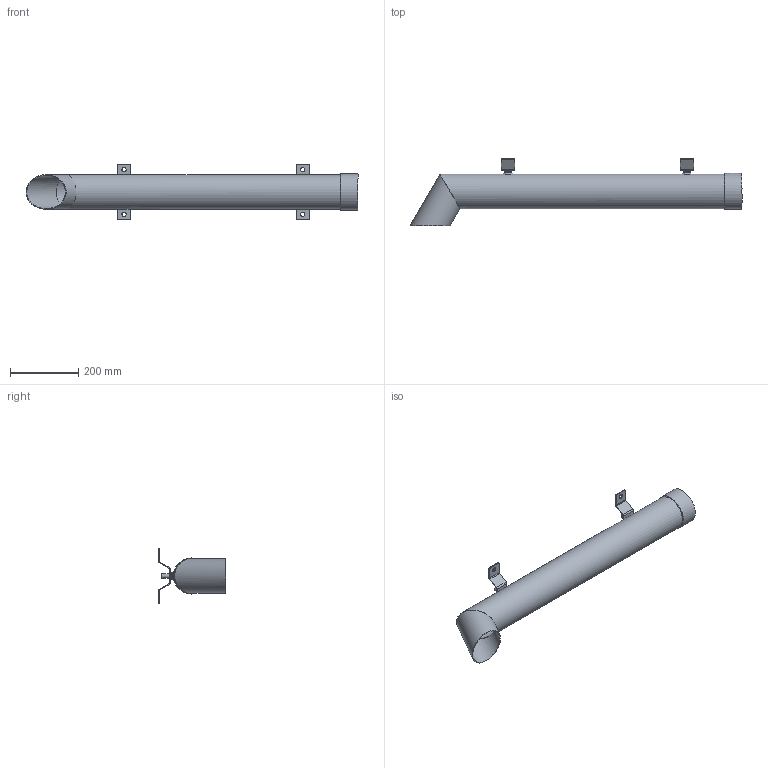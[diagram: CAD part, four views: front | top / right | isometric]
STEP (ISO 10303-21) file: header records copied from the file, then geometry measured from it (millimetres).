
FILE_DESCRIPTION(/* description */ (''),/* implementation_level */ '2;1');
FILE_NAME(/* name */ 'C:\_VaultVF\Designs\Kunder\Evaldssons\200526\EV8121.stp',/* time_stamp */ '2020-05-26T17:42:15+02:00',/* author */ ('Peter'),/* organization */ (''),/* preprocessor_version */ 'ST-DEVELOPER v17',/* originating_system */ 'Autodesk Inventor 2018',/* authorisation */ '');
FILE_SCHEMA (('AUTOMOTIVE_DESIGN { 1 0 10303 214 3 1 1 }'));
Length unit declared in the file: millimetre
Products named in the file (2): EV8121; EV8121_Substitute_1
Assembly tree (1 placements, depth 2):
  EV8121
    EV8121_Substitute_1
Bounding box: 974.75 x 198.4 x 159.69 mm (x, y, z)
Volume: 670456.1 mm3; surface area: 656272.7 mm2
Topology: 8 solids, 8 shells, 169 faces, 395 edges, 244 vertices
Faces by surface type: plane 100, cylinder 45, cone 16, bspline 8
Full cylindrical faces by diameter (mm): 6.7 x2, 8 x1, 10.2 x2, 12 x2, 12.5 x4, 16.63 x2, 98 x2, 102 x3, 106 x1
Entity records: 5622 total; most frequent: CARTESIAN_POINT 1487, DIRECTION 827, ORIENTED_EDGE 790, EDGE_CURVE 395, AXIS2_PLACEMENT_3D 312, VERTEX_POINT 244, LINE 203, VECTOR 203
